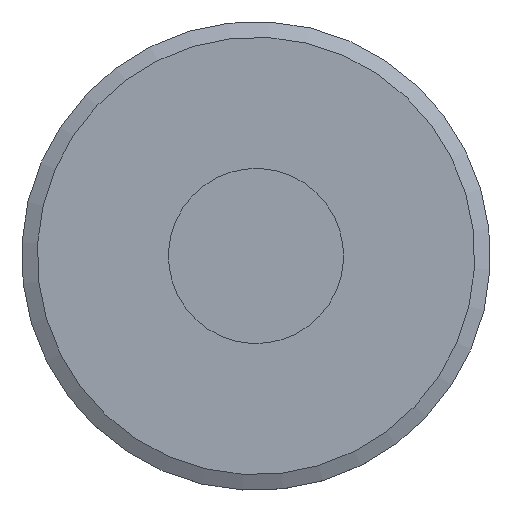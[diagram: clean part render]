
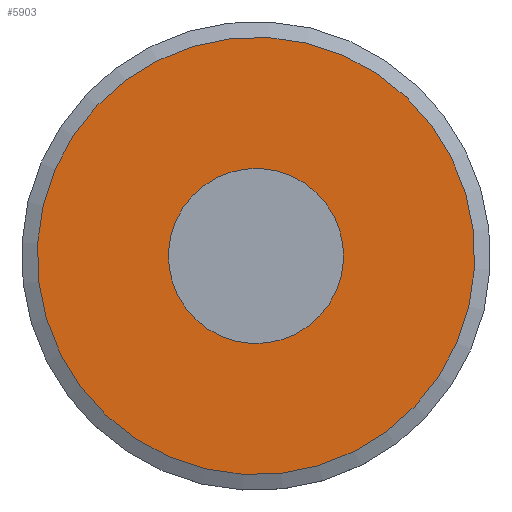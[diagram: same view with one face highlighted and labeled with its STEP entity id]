
A CAD part, top view. The second image highlights one B-rep face of the part: STEP entity #5903.
In plain terms, the highlighted planar face has unit normal (0, 0, 1) as drawn and (0, 1, 0) by its records, which use the part's own axes.
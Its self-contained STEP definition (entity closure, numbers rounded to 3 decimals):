
#1571=CIRCLE('',#6250,42.);
#1572=CIRCLE('',#6252,16.8);
#2421=VERTEX_POINT('',#50457);
#2422=VERTEX_POINT('',#50460);
#3212=EDGE_CURVE('',#2421,#2421,#1571,.T.);
#3213=EDGE_CURVE('',#2422,#2422,#1572,.T.);
#4293=ORIENTED_EDGE('',*,*,#3213,.F.);
#4294=ORIENTED_EDGE('',*,*,#3212,.T.);
#5023=EDGE_LOOP('',(#4293));
#5024=EDGE_LOOP('',(#4294));
#5516=FACE_BOUND('',#5023,.T.);
#5517=FACE_BOUND('',#5024,.T.);
#5903=ADVANCED_FACE('',(#5516,#5517),#52433,.T.);
#6250=AXIS2_PLACEMENT_3D('',#50456,#6961,#6962);
#6251=AXIS2_PLACEMENT_3D('',#50458,#6963,$);
#6252=AXIS2_PLACEMENT_3D('',#50459,#6964,#6965);
#6961=DIRECTION('',(0.,1.,0.));
#6962=DIRECTION('',(42.,0.,0.));
#6963=DIRECTION('',(0.,1.,0.));
#6964=DIRECTION('',(0.,1.,0.));
#6965=DIRECTION('',(16.8,0.,0.));
#50456=CARTESIAN_POINT('',(0.,8.5,0.));
#50457=CARTESIAN_POINT('',(42.,8.5,0.));
#50458=CARTESIAN_POINT('',(29.4,8.5,0.));
#50459=CARTESIAN_POINT('',(0.,8.5,0.));
#50460=CARTESIAN_POINT('',(16.8,8.5,0.));
#52433=PLANE('',#6251);
